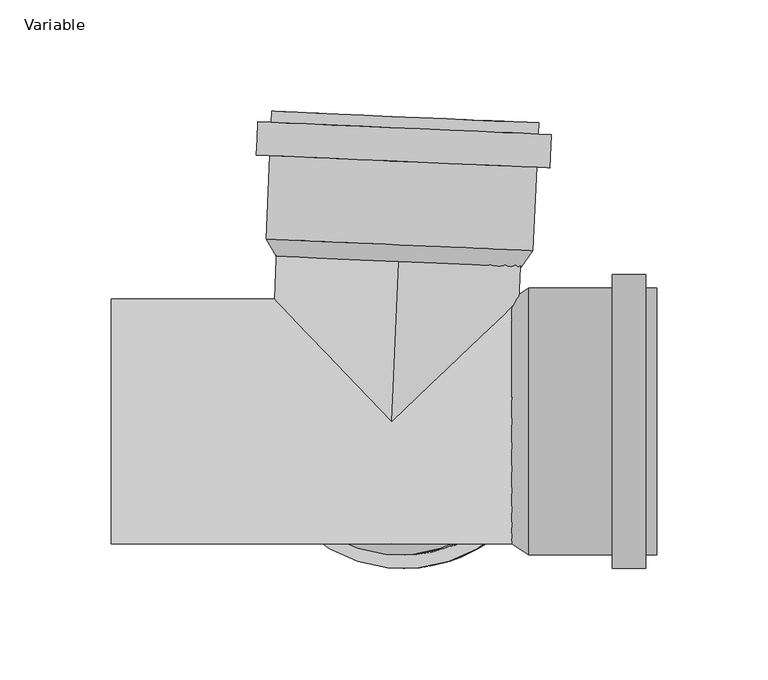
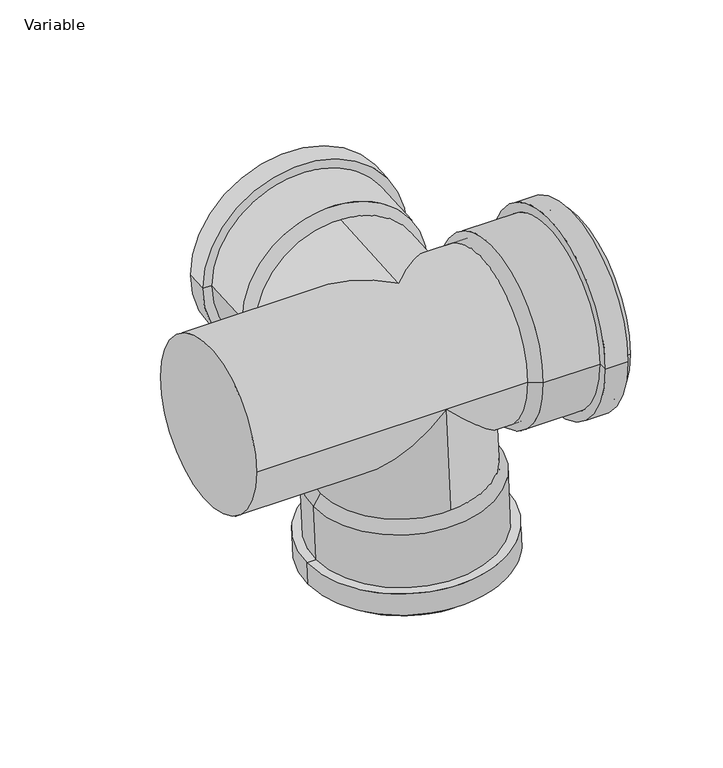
"""IFC4 building model written with IfcOpenShell, lengths in millimetres: pipe fitting geometry, AliaxisFR_Friaphon_DoubleCornerBranch_FR : Variable."""

from ifc_helpers import new_model, si_unit, frame, origin, place, context, project, spatial, polyline, circle_curve, ellipse_curve, source, transform, mapped, element, save
from ifc_brep_helpers import plane_surface, cylinder_surface, revolved_surface, advanced_brep


def variable_d2549ebe(model_context):
    return source(origin(), model_context, "Body", "AdvancedBrep", [
        advanced_brep(
        [(65.9187494, 0.0, -134.2524431), (-53.9670372, 0.0, -139.4867696), (-48.9717961, 0.0, -139.2686727), (60.9235083, 0.0, -134.4705401), (71.0406509, 0.0, -114.0097624), (-60.8337143, 0.0, -119.7675215), (-60.1794235, 0.0, -134.7532448), (71.6949418, 0.0, -128.9954857), (65.0463616, 0.0, -114.2714787), (-54.839425, 0.0, -119.5058052), (63.4106346, 0.0, -76.8071704), (-56.475152, 0.0, -82.0414969), (-51.8070563, 0.0, -74.3305383), (58.0882481, 0.0, -69.5324056), (65.7006524, 0.0, -129.257202), (-54.1851342, 0.0, -134.4915285)],
        [
            (0, 1, circle_curve(frame((5.9758561, 0.0, -136.8696064), z_axis=(0.04361938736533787, 0.0, -0.9990482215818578), x_axis=(-0.9990482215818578, 0.0, -0.04361938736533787)), 60.0)),
            (1, 2),
            (2, 3, circle_curve(frame((5.9758561, 0.0, -136.8696064), z_axis=(-0.04361938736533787, 0.0, 0.9990482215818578), x_axis=(-0.9990482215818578, 0.0, -0.04361938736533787)), 55.0)),
            (3, 0),
            (1, 0, circle_curve(frame((5.9758561, 0.0, -136.8696064), z_axis=(0.04361938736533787, 0.0, -0.9990482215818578), x_axis=(-0.9990482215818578, 0.0, -0.04361938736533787)), 60.0)),
            (3, 2, circle_curve(frame((5.9758561, 0.0, -136.8696064), z_axis=(-0.04361938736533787, 0.0, 0.9990482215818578), x_axis=(-0.9990482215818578, 0.0, -0.04361938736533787)), 55.0)),
            (4, 5, circle_curve(frame((5.1034683, 0.0, -116.8886419), z_axis=(0.04361938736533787, 0.0, -0.9990482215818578), x_axis=(-0.9990482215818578, 0.0, -0.04361938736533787)), 66.0)),
            (5, 6),
            (6, 7, circle_curve(frame((5.7577591, 0.0, -131.8743652), z_axis=(-0.04361938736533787, 0.0, 0.9990482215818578), x_axis=(-0.9990482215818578, 0.0, -0.04361938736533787)), 66.0)),
            (7, 4),
            (5, 4, circle_curve(frame((5.1034683, 0.0, -116.8886419), z_axis=(0.04361938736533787, 0.0, -0.9990482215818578), x_axis=(-0.9990482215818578, 0.0, -0.04361938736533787)), 66.0)),
            (7, 6, circle_curve(frame((5.7577591, 0.0, -131.8743652), z_axis=(-0.04361938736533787, 0.0, 0.9990482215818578), x_axis=(-0.9990482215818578, 0.0, -0.04361938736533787)), 66.0)),
            (8, 9, circle_curve(frame((5.1034683, 0.0, -116.8886419), z_axis=(0.04361938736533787, 0.0, -0.9990482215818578), x_axis=(-0.9990482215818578, 0.0, -0.04361938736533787)), 60.0)),
            (9, 5),
            (4, 8),
            (9, 8, circle_curve(frame((5.1034683, 0.0, -116.8886419), z_axis=(0.04361938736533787, 0.0, -0.9990482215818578), x_axis=(-0.9990482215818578, 0.0, -0.04361938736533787)), 60.0)),
            (10, 11, circle_curve(frame((3.4677413, 0.0, -79.4243336), z_axis=(0.04361938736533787, 0.0, -0.9990482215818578), x_axis=(-0.9990482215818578, 0.0, -0.04361938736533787)), 60.0)),
            (11, 9),
            (8, 10),
            (11, 10, circle_curve(frame((3.4677413, 0.0, -79.4243336), z_axis=(0.04361938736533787, 0.0, -0.9990482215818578), x_axis=(-0.9990482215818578, 0.0, -0.04361938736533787)), 60.0)),
            (2, 12),
            (12, 13, circle_curve(frame((3.1405959, 0.0, -71.931472), z_axis=(-0.04361938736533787, 0.0, 0.9990482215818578), x_axis=(-0.9990482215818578, 0.0, -0.04361938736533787)), 55.0)),
            (13, 3),
            (13, 12, circle_curve(frame((3.1405959, 0.0, -71.931472), z_axis=(-0.04361938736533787, 0.0, 0.9990482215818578), x_axis=(-0.9990482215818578, 0.0, -0.04361938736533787)), 55.0)),
            (12, 11),
            (10, 13),
            (14, 15, circle_curve(frame((5.7577591, 0.0, -131.8743652), z_axis=(0.04361938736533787, 0.0, -0.9990482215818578), x_axis=(-0.9990482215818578, 0.0, -0.04361938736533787)), 60.0)),
            (15, 1),
            (0, 14),
            (15, 14, circle_curve(frame((5.7577591, 0.0, -131.8743652), z_axis=(0.04361938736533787, 0.0, -0.9990482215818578), x_axis=(-0.9990482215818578, 0.0, -0.04361938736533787)), 60.0)),
            (6, 15),
            (14, 7),
        ],
        [
            plane_surface(frame((5.9758561, 0.0, -136.8696064), z_axis=(0.04361938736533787, 0.0, -0.9990482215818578), x_axis=(-0.9990482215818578, 0.0, -0.04361938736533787))),
            cylinder_surface(frame((3.1405959, 0.0, -71.931472), z_axis=(-0.04361938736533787, 0.0, 0.9990482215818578), x_axis=(-0.9990482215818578, 0.0, -0.04361938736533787)), 66.0),
            plane_surface(frame((5.1034683, 0.0, -116.8886419), z_axis=(-0.04361938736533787, 0.0, 0.9990482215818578), x_axis=(-0.9990482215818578, 0.0, -0.04361938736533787))),
            cylinder_surface(frame((3.1405959, 0.0, -71.931472), z_axis=(-0.04361938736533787, 0.0, 0.9990482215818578), x_axis=(-0.9990482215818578, 0.0, -0.04361938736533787)), 60.0),
            revolved_surface(polyline([(-51.80705629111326, 0.0, -74.33053821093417), (-48.971796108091, 0.0, -139.26867271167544)]), (3.1405959, 0.0, -71.931472), (-0.04361938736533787, 0.0, 0.9990482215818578)),
            revolved_surface(polyline([(-56.475152, 0.0, -82.0414969), (-51.8070563, 0.0, -74.3305383)]), (3.1405959, 0.0, -71.931472), (-0.04361938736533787, 0.0, 0.9990482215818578)),
            plane_surface(frame((5.7577591, 0.0, -131.8743652), z_axis=(0.04361938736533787, 0.0, -0.9990482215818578), x_axis=(-0.9990482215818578, 0.0, -0.04361938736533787))),
        ],
        [
            (0, [[1, 2, 3, 4]]),
            (0, [[5, -4, 6, -2]]),
            (1, [[7, 8, 9, 10]]),
            (1, [[11, -10, 12, -8]]),
            (2, [[13, 14, -7, 15]]),
            (2, [[16, -15, -11, -14]]),
            (3, [[17, 18, -13, 19]]),
            (3, [[20, -19, -16, -18]]),
            (4, [[-3, 21, 22, 23]]),
            (4, [[-6, -23, 24, -21]]),
            (5, [[-22, 25, -17, 26]]),
            (5, [[-24, -26, -20, -25]]),
            (3, [[27, 28, -1, 29]]),
            (3, [[30, -29, -5, -28]]),
            (6, [[-9, 31, -27, 32]]),
            (6, [[-12, -32, -30, -31]]),
        ],
    ),
        advanced_brep(
        [(119.0, -60.0, 0.0), (119.0, 60.0, 0.0), (119.0, 55.0, 0.0), (119.0, -55.0, 0.0), (99.0, -66.0, 0.0), (99.0, 66.0, 0.0), (114.0, 66.0, 0.0), (114.0, -66.0, 0.0), (99.0, -60.0, 0.0), (99.0, 60.0, 0.0), (61.5, -60.0, 0.0), (61.5, 60.0, 0.0), (54.0, 55.0, 0.0), (54.0, -55.0, 0.0), (114.0, -60.0, 0.0), (114.0, 60.0, 0.0)],
        [
            (0, 1, circle_curve(frame((119.0, 0.0, 0.0), z_axis=(1.0, 0.0, 0.0), x_axis=(0.0, 1.0, 0.0)), 60.0)),
            (1, 2),
            (2, 3, circle_curve(frame((119.0, 0.0, 0.0), z_axis=(-1.0, 0.0, 0.0), x_axis=(0.0, 1.0, 0.0)), 55.0)),
            (3, 0),
            (1, 0, circle_curve(frame((119.0, 0.0, 0.0), z_axis=(1.0, 0.0, 0.0), x_axis=(0.0, 1.0, 0.0)), 60.0)),
            (3, 2, circle_curve(frame((119.0, 0.0, 0.0), z_axis=(-1.0, 0.0, 0.0), x_axis=(0.0, 1.0, 0.0)), 55.0)),
            (4, 5, circle_curve(frame((99.0, 0.0, 0.0), z_axis=(1.0, 0.0, 0.0), x_axis=(0.0, 1.0, 0.0)), 66.0)),
            (5, 6),
            (6, 7, circle_curve(frame((114.0, 0.0, 0.0), z_axis=(-1.0, 0.0, 0.0), x_axis=(0.0, 1.0, 0.0)), 66.0)),
            (7, 4),
            (5, 4, circle_curve(frame((99.0, 0.0, 0.0), z_axis=(1.0, 0.0, 0.0), x_axis=(0.0, 1.0, 0.0)), 66.0)),
            (7, 6, circle_curve(frame((114.0, 0.0, 0.0), z_axis=(-1.0, 0.0, 0.0), x_axis=(0.0, 1.0, 0.0)), 66.0)),
            (8, 9, circle_curve(frame((99.0, 0.0, 0.0), z_axis=(1.0, 0.0, 0.0), x_axis=(0.0, 1.0, 0.0)), 60.0)),
            (9, 5),
            (4, 8),
            (9, 8, circle_curve(frame((99.0, 0.0, 0.0), z_axis=(1.0, 0.0, 0.0), x_axis=(0.0, 1.0, 0.0)), 60.0)),
            (10, 11, circle_curve(frame((61.5, 0.0, 0.0), z_axis=(1.0, 0.0, 0.0), x_axis=(0.0, 1.0, 0.0)), 60.0)),
            (11, 9),
            (8, 10),
            (11, 10, circle_curve(frame((61.5, 0.0, 0.0), z_axis=(1.0, 0.0, 0.0), x_axis=(0.0, 1.0, 0.0)), 60.0)),
            (2, 12),
            (12, 13, circle_curve(frame((54.0, 0.0, 0.0), z_axis=(-1.0, 0.0, 0.0), x_axis=(0.0, 1.0, 0.0)), 55.0)),
            (13, 3),
            (13, 12, circle_curve(frame((54.0, 0.0, 0.0), z_axis=(-1.0, 0.0, 0.0), x_axis=(0.0, 1.0, 0.0)), 55.0)),
            (12, 11),
            (10, 13),
            (14, 15, circle_curve(frame((114.0, 0.0, 0.0), z_axis=(1.0, 0.0, 0.0), x_axis=(0.0, 1.0, 0.0)), 60.0)),
            (15, 1),
            (0, 14),
            (15, 14, circle_curve(frame((114.0, 0.0, 0.0), z_axis=(1.0, 0.0, 0.0), x_axis=(0.0, 1.0, 0.0)), 60.0)),
            (6, 15),
            (14, 7),
        ],
        [
            plane_surface(frame((119.0, 0.0, 0.0), z_axis=(1.0, 0.0, 0.0), x_axis=(0.0, 1.0, 0.0))),
            cylinder_surface(frame((54.0, 0.0, 0.0), z_axis=(-1.0, 0.0, 0.0), x_axis=(0.0, 1.0, 0.0)), 66.0),
            plane_surface(frame((99.0, 0.0, 0.0), z_axis=(-1.0, 0.0, 0.0), x_axis=(0.0, 1.0, 0.0))),
            cylinder_surface(frame((54.0, 0.0, 0.0), z_axis=(-1.0, 0.0, 0.0), x_axis=(0.0, 1.0, 0.0)), 60.0),
            revolved_surface(polyline([(54.0, 55.0, 0.0), (119.0, 55.0, 0.0)]), (54.0, 0.0, 0.0), (-1.0, 0.0, 0.0)),
            revolved_surface(polyline([(61.5, 60.0, 0.0), (54.0, 55.0, 0.0)]), (54.0, 0.0, 0.0), (-1.0, 0.0, 0.0)),
            plane_surface(frame((114.0, 0.0, 0.0), z_axis=(1.0, 0.0, 0.0), x_axis=(0.0, 1.0, 0.0))),
        ],
        [
            (0, [[1, 2, 3, 4]]),
            (0, [[5, -4, 6, -2]]),
            (1, [[7, 8, 9, 10]]),
            (1, [[11, -10, 12, -8]]),
            (2, [[13, 14, -7, 15]]),
            (2, [[16, -15, -11, -14]]),
            (3, [[17, 18, -13, 19]]),
            (3, [[20, -19, -16, -18]]),
            (4, [[-3, 21, 22, 23]]),
            (4, [[-6, -23, 24, -21]]),
            (5, [[-22, 25, -17, 26]]),
            (5, [[-24, -26, -20, -25]]),
            (3, [[27, 28, -1, 29]]),
            (3, [[30, -29, -5, -28]]),
            (6, [[-9, 31, -27, 32]]),
            (6, [[-12, -32, -30, -31]]),
        ],
    ),
        advanced_brep(
        [(65.9187494, 134.2524431, 0.0), (-53.9670372, 139.4867696, 0.0), (-48.9717961, 139.2686727, 0.0), (60.9235083, 134.4705401, 0.0), (71.0406509, 114.0097624, 0.0), (-60.8337143, 119.7675215, 0.0), (-60.1794235, 134.7532448, 0.0), (71.6949418, 128.9954857, 0.0), (65.0463616, 114.2714787, 0.0), (-54.839425, 119.5058052, 0.0), (63.4106346, 76.8071704, 0.0), (-56.475152, 82.0414969, 0.0), (-51.8070563, 74.3305383, 0.0), (58.0882481, 69.5324056, 0.0), (65.7006524, 129.257202, 0.0), (-54.1851342, 134.4915285, 0.0)],
        [
            (0, 1, circle_curve(frame((5.9758561, 136.8696064, 0.0), z_axis=(0.04361938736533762, 0.9990482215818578, 0.0), x_axis=(-0.9990482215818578, 0.04361938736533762, 0.0)), 60.0)),
            (1, 2),
            (2, 3, circle_curve(frame((5.9758561, 136.8696064, 0.0), z_axis=(-0.04361938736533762, -0.9990482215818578, 0.0), x_axis=(-0.9990482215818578, 0.04361938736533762, 0.0)), 55.0)),
            (3, 0),
            (1, 0, circle_curve(frame((5.9758561, 136.8696064, 0.0), z_axis=(0.04361938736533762, 0.9990482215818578, 0.0), x_axis=(-0.9990482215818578, 0.04361938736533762, 0.0)), 60.0)),
            (3, 2, circle_curve(frame((5.9758561, 136.8696064, 0.0), z_axis=(-0.04361938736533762, -0.9990482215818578, 0.0), x_axis=(-0.9990482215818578, 0.04361938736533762, 0.0)), 55.0)),
            (4, 5, circle_curve(frame((5.1034683, 116.8886419, 0.0), z_axis=(0.04361938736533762, 0.9990482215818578, 0.0), x_axis=(-0.9990482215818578, 0.04361938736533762, 0.0)), 66.0)),
            (5, 6),
            (6, 7, circle_curve(frame((5.7577591, 131.8743652, 0.0), z_axis=(-0.04361938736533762, -0.9990482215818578, 0.0), x_axis=(-0.9990482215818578, 0.04361938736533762, 0.0)), 66.0)),
            (7, 4),
            (5, 4, circle_curve(frame((5.1034683, 116.8886419, 0.0), z_axis=(0.04361938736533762, 0.9990482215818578, 0.0), x_axis=(-0.9990482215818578, 0.04361938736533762, 0.0)), 66.0)),
            (7, 6, circle_curve(frame((5.7577591, 131.8743652, 0.0), z_axis=(-0.04361938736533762, -0.9990482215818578, 0.0), x_axis=(-0.9990482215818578, 0.04361938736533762, 0.0)), 66.0)),
            (8, 9, circle_curve(frame((5.1034683, 116.8886419, 0.0), z_axis=(0.04361938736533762, 0.9990482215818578, 0.0), x_axis=(-0.9990482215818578, 0.04361938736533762, 0.0)), 60.0)),
            (9, 5),
            (4, 8),
            (9, 8, circle_curve(frame((5.1034683, 116.8886419, 0.0), z_axis=(0.04361938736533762, 0.9990482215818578, 0.0), x_axis=(-0.9990482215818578, 0.04361938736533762, 0.0)), 60.0)),
            (10, 11, circle_curve(frame((3.4677413, 79.4243336, 0.0), z_axis=(0.04361938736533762, 0.9990482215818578, 0.0), x_axis=(-0.9990482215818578, 0.04361938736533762, 0.0)), 60.0)),
            (11, 9),
            (8, 10),
            (11, 10, circle_curve(frame((3.4677413, 79.4243336, 0.0), z_axis=(0.04361938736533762, 0.9990482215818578, 0.0), x_axis=(-0.9990482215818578, 0.04361938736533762, 0.0)), 60.0)),
            (2, 12),
            (12, 13, circle_curve(frame((3.1405959, 71.931472, 0.0), z_axis=(-0.04361938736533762, -0.9990482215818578, 0.0), x_axis=(-0.9990482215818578, 0.04361938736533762, 0.0)), 55.0)),
            (13, 3),
            (13, 12, circle_curve(frame((3.1405959, 71.931472, 0.0), z_axis=(-0.04361938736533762, -0.9990482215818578, 0.0), x_axis=(-0.9990482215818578, 0.04361938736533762, 0.0)), 55.0)),
            (12, 11),
            (10, 13),
            (14, 15, circle_curve(frame((5.7577591, 131.8743652, 0.0), z_axis=(0.04361938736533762, 0.9990482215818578, 0.0), x_axis=(-0.9990482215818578, 0.04361938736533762, 0.0)), 60.0)),
            (15, 1),
            (0, 14),
            (15, 14, circle_curve(frame((5.7577591, 131.8743652, 0.0), z_axis=(0.04361938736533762, 0.9990482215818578, 0.0), x_axis=(-0.9990482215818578, 0.04361938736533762, 0.0)), 60.0)),
            (6, 15),
            (14, 7),
        ],
        [
            plane_surface(frame((5.9758561, 136.8696064, 0.0), z_axis=(0.04361938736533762, 0.9990482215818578, 0.0), x_axis=(-0.9990482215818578, 0.04361938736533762, 0.0))),
            cylinder_surface(frame((3.1405959, 71.931472, 0.0), z_axis=(-0.04361938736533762, -0.9990482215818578, 0.0), x_axis=(-0.9990482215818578, 0.04361938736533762, 0.0)), 66.0),
            plane_surface(frame((5.1034683, 116.8886419, 0.0), z_axis=(-0.04361938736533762, -0.9990482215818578, 0.0), x_axis=(-0.9990482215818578, 0.04361938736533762, 0.0))),
            cylinder_surface(frame((3.1405959, 71.931472, 0.0), z_axis=(-0.04361938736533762, -0.9990482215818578, 0.0), x_axis=(-0.9990482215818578, 0.04361938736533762, 0.0)), 60.0),
            revolved_surface(polyline([(-51.80705629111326, 74.33053821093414, 0.0), (-48.97179610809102, 139.26867271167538, 0.0)]), (3.1405959, 71.931472, 0.0), (-0.04361938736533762, -0.9990482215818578, 0.0)),
            revolved_surface(polyline([(-56.475152, 82.0414969, 0.0), (-51.8070563, 74.3305383, 0.0)]), (3.1405959, 71.931472, 0.0), (-0.04361938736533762, -0.9990482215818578, 0.0)),
            plane_surface(frame((5.7577591, 131.8743652, 0.0), z_axis=(0.04361938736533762, 0.9990482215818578, 0.0), x_axis=(-0.9990482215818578, 0.04361938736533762, 0.0))),
        ],
        [
            (0, [[1, 2, 3, 4]]),
            (0, [[5, -4, 6, -2]]),
            (1, [[7, 8, 9, 10]]),
            (1, [[11, -10, 12, -8]]),
            (2, [[13, 14, -7, 15]]),
            (2, [[16, -15, -11, -14]]),
            (3, [[17, 18, -13, 19]]),
            (3, [[20, -19, -16, -18]]),
            (4, [[-3, 21, 22, 23]]),
            (4, [[-6, -23, 24, -21]]),
            (5, [[-22, 25, -17, 26]]),
            (5, [[-24, -26, -20, -25]]),
            (3, [[27, 28, -1, 29]]),
            (3, [[30, -29, -5, -28]]),
            (6, [[-9, 31, -27, 32]]),
            (6, [[-12, -32, -30, -31]]),
        ],
    ),
        advanced_brep(
        [(3.3586928, 76.9267131, -55.0), (3.3586928, 76.9267131, 55.0), (0.0, 0.0, 55.0), (57.4537495, 55.0, 0.0), (40.6259359, 38.890873, -38.890873), (2.4013519, 55.0, -55.0), (-37.2299115, 38.890873, -38.890873), (-52.6510458, 55.0, 0.0), (59.0, -55.0, 0.0), (59.0, 55.0, 0.0), (-126.0, -55.0, 0.0), (-126.0, 55.0, 0.0), (0.0, -55.0, 0.0), (3.3586928, -55.0, -76.9267131), (3.3586928, 55.0, -76.9267131)],
        [
            (0, 1, circle_curve(frame((3.3586928, 76.9267131, 0.0), z_axis=(0.04361938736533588, 0.9990482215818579, 0.0), x_axis=(0.0, 0.0, 1.0)), 55.0)),
            (1, 0, circle_curve(frame((3.3586928, 76.9267131, 0.0), z_axis=(0.04361938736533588, 0.9990482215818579, 0.0), x_axis=(0.0, 0.0, 1.0)), 55.0)),
            (1, 2),
            (2, 3, ellipse_curve(frame((0.0, 0.0, 0.0), z_axis=(-0.6915130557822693, 0.7223639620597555, 0.0), x_axis=(-0.7223639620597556, -0.6915130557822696, 0.0)), 79.5357362, 55.0)),
            (3, 4, ellipse_curve(frame((0.0, 0.0, 0.0), z_axis=(-0.6915130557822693, 0.7223639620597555, 0.0), x_axis=(-0.7223639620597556, -0.6915130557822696, 0.0)), 79.5357362, 55.0)),
            (4, 5, ellipse_curve(frame((0.0, 0.0, 0.0), z_axis=(0.0, 0.707106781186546, 0.7071067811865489), x_axis=(-0.06162852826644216, -0.705762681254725, 0.7057626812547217)), 77.8558474, 55.0)),
            (5, 0),
            (5, 6, ellipse_curve(frame((0.0, 0.0, 0.0), z_axis=(0.0, 0.707106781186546, 0.7071067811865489), x_axis=(-0.06162852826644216, -0.705762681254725, 0.7057626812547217)), 77.8558474, 55.0)),
            (6, 7, ellipse_curve(frame((0.0, 0.0, 0.0), z_axis=(0.7223639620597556, 0.6915130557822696, 0.0), x_axis=(0.6915130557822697, -0.7223639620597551, 0.0)), 76.1389035, 55.0)),
            (7, 2, ellipse_curve(frame((0.0, 0.0, 0.0), z_axis=(0.7223639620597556, 0.6915130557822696, 0.0), x_axis=(0.6915130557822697, -0.7223639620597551, 0.0)), 76.1389035, 55.0)),
            (8, 9, circle_curve(frame((59.0, 0.0, 0.0), z_axis=(1.0, 0.0, 0.0), x_axis=(0.0, 1.0, 0.0)), 55.0)),
            (9, 8, circle_curve(frame((59.0, 0.0, 0.0), z_axis=(1.0, 0.0, 0.0), x_axis=(0.0, 1.0, 0.0)), 55.0)),
            (10, 11, circle_curve(frame((-126.0, 0.0, 0.0), z_axis=(-1.0, 0.0, 0.0), x_axis=(0.0, 1.0, 0.0)), 55.0)),
            (11, 10, circle_curve(frame((-126.0, 0.0, 0.0), z_axis=(-1.0, 0.0, 0.0), x_axis=(0.0, 1.0, 0.0)), 55.0)),
            (11, 7),
            (6, 12, ellipse_curve(frame((0.0, 0.0, 0.0), z_axis=(-0.722363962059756, 0.0, 0.691513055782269), x_axis=(0.691513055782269, 0.0, 0.7223639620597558)), 76.1389035, 55.0)),
            (12, 10),
            (8, 12),
            (12, 4, ellipse_curve(frame((0.0, 0.0, 0.0), z_axis=(0.691513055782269, 0.0, 0.7223639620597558), x_axis=(0.7223639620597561, 0.0, -0.6915130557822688)), 79.5357362, 55.0)),
            (3, 9),
            (13, 14, circle_curve(frame((3.3586928, 0.0, -76.9267131), z_axis=(0.043619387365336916, 0.0, -0.9990482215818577), x_axis=(0.0, 1.0, 0.0)), 55.0)),
            (14, 13, circle_curve(frame((3.3586928, 0.0, -76.9267131), z_axis=(0.043619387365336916, 0.0, -0.9990482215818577), x_axis=(0.0, 1.0, 0.0)), 55.0)),
            (14, 5),
            (12, 13),
        ],
        [
            plane_surface(frame((3.3586928, 76.9267131, 55.0), z_axis=(0.04361938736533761, 0.9990482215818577, 0.0), x_axis=(0.9990482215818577, -0.04361938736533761, 0.0))),
            cylinder_surface(frame((3.3586928, 76.9267131, 0.0), z_axis=(-0.04361938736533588, -0.9990482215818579, 0.0), x_axis=(0.0, 0.0, 1.0)), 55.0),
            plane_surface(frame((59.0, 55.0, 0.0), z_axis=(1.0, 0.0, 0.0), x_axis=(0.0, 0.0, 1.0))),
            plane_surface(frame((-126.0, 55.0, 0.0), z_axis=(-1.0, 0.0, 0.0), x_axis=(0.0, 0.0, -1.0))),
            cylinder_surface(frame((-126.0, 0.0, 0.0), z_axis=(1.0, 0.0, 0.0), x_axis=(0.0, 1.0, 0.0)), 55.0),
            plane_surface(frame((3.3586928, 55.0, -76.9267131), z_axis=(0.043619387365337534, 0.0, -0.9990482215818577), x_axis=(0.9990482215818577, 0.0, 0.043619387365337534))),
            cylinder_surface(frame((3.3586928, 0.0, -76.9267131), z_axis=(-0.043619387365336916, 0.0, 0.9990482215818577), x_axis=(0.0, 1.0, 0.0)), 55.0),
        ],
        [
            (0, [[1, 2]]),
            (1, [[-2, 3, 4, 5, 6, 7]]),
            (1, [[-1, -7, 8, 9, 10, -3]]),
            (2, [[11, 12]]),
            (3, [[13, 14]]),
            (4, [[-14, 15, -9, 16, 17]]),
            (4, [[-11, 18, 19, -5, 20]]),
            (4, [[-12, -20, -4, -10, -15, -13, -17, -18]]),
            (5, [[21, 22]]),
            (6, [[-22, 23, -6, -19, 24]]),
            (6, [[-21, -24, -16, -8, -23]]),
        ],
    ),
    ])


if __name__ == "__main__":
    model = new_model("IFC4")
    model_context = context("Model", 3, world=origin())
    ifc_project = project(units=[si_unit("LENGTHUNIT", "METRE", prefix="MILLI")], contexts=[model_context])
    site = spatial("IfcSite", under=ifc_project)
    building = spatial("IfcBuilding", under=site)
    placement = place(None, origin())
    variable_shape = variable_d2549ebe(model_context)
    element("IfcPipeFitting", 1, ObjectType="AliaxisFR_Friaphon_DoubleCornerBranch_FR : Variable", at=placement, inside=building, context=model_context, shape_type="MappedRepresentation", body=[
        mapped(variable_shape, transform((0.0, 0.0, 0.0), x_axis=(1.0, 0.0, 0.0), y_axis=(0.0, 1.0, 0.0), z_axis=(0.0, 0.0, 1.0))),
    ])
    save(model, "model.ifc")
